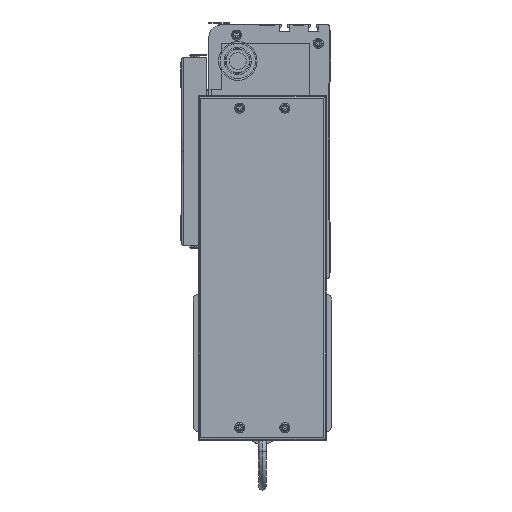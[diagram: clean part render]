
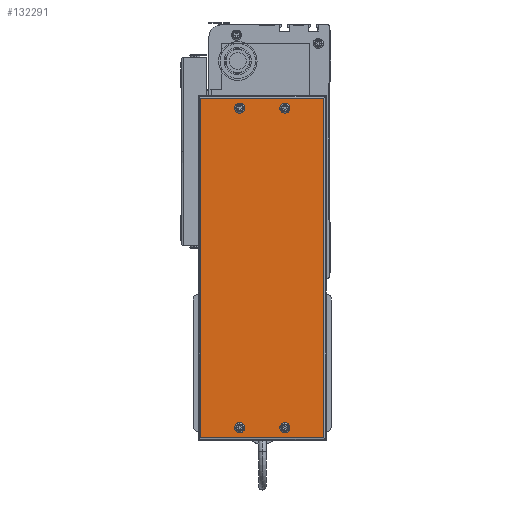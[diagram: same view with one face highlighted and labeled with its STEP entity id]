
A CAD part, left-side view. The second image highlights one B-rep face of the part: STEP entity #132291.
In plain terms, the highlighted planar face has unit normal (-1, 0, 0) as drawn and (1, 0, 0) by its records, which use the part's own axes.
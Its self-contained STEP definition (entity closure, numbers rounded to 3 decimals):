
#39218 = CARTESIAN_POINT ( 'NONE',  ( 50., 10., -35.5 ) ) ;
#40922 = CIRCLE ( 'NONE', #41011, 2.5 ) ;
#40934 = CARTESIAN_POINT ( 'NONE',  ( 50., 264., -33. ) ) ;
#40955 = CARTESIAN_POINT ( 'NONE',  ( 50., 274., -2. ) ) ;
#40956 = LINE ( 'NONE', #40955, #41070 ) ;
#40988 = DIRECTION ( 'NONE',  ( 0., 0., -1. ) ) ;
#40990 = DIRECTION ( 'NONE',  ( 1., 0., 0. ) ) ;
#41011 = AXIS2_PLACEMENT_3D ( 'NONE', #40934, #40990, #40988 ) ;
#41066 = CARTESIAN_POINT ( 'NONE',  ( 50., 2., -2. ) ) ;
#41068 = DIRECTION ( 'NONE',  ( 0., -1., 0. ) ) ;
#41070 = VECTOR ( 'NONE', #41068, 1000. ) ;
#41278 = DIRECTION ( 'NONE',  ( 0., 0., -1. ) ) ;
#41280 = DIRECTION ( 'NONE',  ( 1., 0., 0. ) ) ;
#41282 = CARTESIAN_POINT ( 'NONE',  ( 50., 10., -69. ) ) ;
#41283 = AXIS2_PLACEMENT_3D ( 'NONE', #41282, #41280, #41278 ) ;
#41311 = CIRCLE ( 'NONE', #41283, 2.5 ) ;
#41393 = DIRECTION ( 'NONE',  ( 0., 0., -1. ) ) ;
#41399 = FACE_BOUND ( 'NONE', #132630, .T. ) ;
#41413 = DIRECTION ( 'NONE',  ( 1., 0., 0. ) ) ;
#41433 = AXIS2_PLACEMENT_3D ( 'NONE', #41440, #41413, #41393 ) ;
#41438 = AXIS2_PLACEMENT_3D ( 'NONE', #41446, #41444, #41516 ) ;
#41440 = CARTESIAN_POINT ( 'NONE',  ( 50., 264., -33. ) ) ;
#41444 = DIRECTION ( 'NONE',  ( -1., 0., 0. ) ) ;
#41446 = CARTESIAN_POINT ( 'NONE',  ( 50., 274., 0. ) ) ;
#41453 = CIRCLE ( 'NONE', #41433, 2.5 ) ;
#41485 = CARTESIAN_POINT ( 'NONE',  ( 50., 2., 0. ) ) ;
#41486 = LINE ( 'NONE', #41485, #41498 ) ;
#41496 = DIRECTION ( 'NONE',  ( 0., 0., -1. ) ) ;
#41498 = VECTOR ( 'NONE', #41496, 1000. ) ;
#41513 = FACE_BOUND ( 'NONE', #132101, .T. ) ;
#41514 = FACE_BOUND ( 'NONE', #132773, .T. ) ;
#41516 = DIRECTION ( 'NONE',  ( 0., 0., 1. ) ) ;
#41522 = PLANE ( 'NONE',  #41438 ) ;
#41524 = FACE_BOUND ( 'NONE', #132637, .T. ) ;
#41527 = FACE_OUTER_BOUND ( 'NONE', #132120, .T. ) ;
#41681 = CARTESIAN_POINT ( 'NONE',  ( 50., 2., -100. ) ) ;
#41767 = CARTESIAN_POINT ( 'NONE',  ( 50., 264., -35.5 ) ) ;
#41841 = CARTESIAN_POINT ( 'NONE',  ( 50., 10., -66.5 ) ) ;
#41880 = CARTESIAN_POINT ( 'NONE',  ( 50., 10., -30.5 ) ) ;
#41897 = CARTESIAN_POINT ( 'NONE',  ( 50., 10., -71.5 ) ) ;
#42358 = CARTESIAN_POINT ( 'NONE',  ( 50., 272., -100. ) ) ;
#42373 = DIRECTION ( 'NONE',  ( 0., 1., 0. ) ) ;
#42375 = VECTOR ( 'NONE', #42373, 1000. ) ;
#42377 = CARTESIAN_POINT ( 'NONE',  ( 50., 274., -100. ) ) ;
#42395 = LINE ( 'NONE', #42377, #42375 ) ;
#42412 = CARTESIAN_POINT ( 'NONE',  ( 50., 272., -2. ) ) ;
#42427 = CARTESIAN_POINT ( 'NONE',  ( 50., 264., -30.5 ) ) ;
#42745 = AXIS2_PLACEMENT_3D ( 'NONE', #42811, #42931, #42930 ) ;
#42749 = AXIS2_PLACEMENT_3D ( 'NONE', #42869, #42832, #42831 ) ;
#42757 = DIRECTION ( 'NONE',  ( 0., 0., -1. ) ) ;
#42759 = DIRECTION ( 'NONE',  ( 1., 0., 0. ) ) ;
#42761 = CARTESIAN_POINT ( 'NONE',  ( 50., 10., -69. ) ) ;
#42762 = AXIS2_PLACEMENT_3D ( 'NONE', #42761, #42759, #42757 ) ;
#42777 = CIRCLE ( 'NONE', #42749, 2.5 ) ;
#42792 = CIRCLE ( 'NONE', #42762, 2.5 ) ;
#42811 = CARTESIAN_POINT ( 'NONE',  ( 50., 10., -33. ) ) ;
#42831 = DIRECTION ( 'NONE',  ( 0., 0., -1. ) ) ;
#42832 = DIRECTION ( 'NONE',  ( 1., 0., 0. ) ) ;
#42866 = CIRCLE ( 'NONE', #42745, 2.5 ) ;
#42869 = CARTESIAN_POINT ( 'NONE',  ( 50., 264., -69. ) ) ;
#42930 = DIRECTION ( 'NONE',  ( 0., 0., -1. ) ) ;
#42931 = DIRECTION ( 'NONE',  ( 1., 0., 0. ) ) ;
#43097 = DIRECTION ( 'NONE',  ( 0., 0., 1. ) ) ;
#43099 = VECTOR ( 'NONE', #43097, 1000. ) ;
#43100 = CARTESIAN_POINT ( 'NONE',  ( 50., 272., 0. ) ) ;
#43102 = LINE ( 'NONE', #43100, #43099 ) ;
#68453 = CARTESIAN_POINT ( 'NONE',  ( 50., 10., -33. ) ) ;
#68475 = DIRECTION ( 'NONE',  ( 1., 0., 0. ) ) ;
#68480 = AXIS2_PLACEMENT_3D ( 'NONE', #68453, #68475, #68543 ) ;
#68486 = CIRCLE ( 'NONE', #68480, 2.5 ) ;
#68539 = CARTESIAN_POINT ( 'NONE',  ( 50., 264., -66.5 ) ) ;
#68543 = DIRECTION ( 'NONE',  ( 0., 0., -1. ) ) ;
#68544 = CIRCLE ( 'NONE', #68577, 2.5 ) ;
#68559 = DIRECTION ( 'NONE',  ( 1., 0., 0. ) ) ;
#68577 = AXIS2_PLACEMENT_3D ( 'NONE', #68579, #68559, #68612 ) ;
#68579 = CARTESIAN_POINT ( 'NONE',  ( 50., 264., -69. ) ) ;
#68612 = DIRECTION ( 'NONE',  ( 0., 0., -1. ) ) ;
#68637 = CARTESIAN_POINT ( 'NONE',  ( 50., 264., -71.5 ) ) ;
#131458 = EDGE_CURVE ( 'NONE', #132477, #131583, #68486, .T. ) ;
#131468 = VERTEX_POINT ( 'NONE', #68539 ) ;
#131493 = EDGE_CURVE ( 'NONE', #131468, #131527, #68544, .T. ) ;
#131527 = VERTEX_POINT ( 'NONE', #68637 ) ;
#131583 = VERTEX_POINT ( 'NONE', #39218 ) ;
#131944 = ORIENTED_EDGE ( 'NONE', *, *, #131493, .F. ) ;
#132101 = EDGE_LOOP ( 'NONE', ( #132849, #132357 ) ) ;
#132102 = EDGE_CURVE ( 'NONE', #132618, #132409, #40922, .T. ) ;
#132120 = EDGE_LOOP ( 'NONE', ( #132296, #132294, #132619, #132634 ) ) ;
#132124 = EDGE_CURVE ( 'NONE', #132641, #132129, #40956, .T. ) ;
#132129 = VERTEX_POINT ( 'NONE', #41066 ) ;
#132227 = ORIENTED_EDGE ( 'NONE', *, *, #131458, .F. ) ;
#132231 = EDGE_CURVE ( 'NONE', #132474, #132456, #41311, .T. ) ;
#132288 = EDGE_CURVE ( 'NONE', #132409, #132618, #41453, .T. ) ;
#132291 = ADVANCED_FACE ( 'NONE', ( #41527, #41524, #41399, #41514, #41513 ), #41522, .F. ) ;
#132294 = ORIENTED_EDGE ( 'NONE', *, *, #132298, .T. ) ;
#132296 = ORIENTED_EDGE ( 'NONE', *, *, #132124, .T. ) ;
#132298 = EDGE_CURVE ( 'NONE', #132129, #132399, #41486, .T. ) ;
#132357 = ORIENTED_EDGE ( 'NONE', *, *, #132102, .F. ) ;
#132399 = VERTEX_POINT ( 'NONE', #41681 ) ;
#132409 = VERTEX_POINT ( 'NONE', #41767 ) ;
#132456 = VERTEX_POINT ( 'NONE', #41841 ) ;
#132474 = VERTEX_POINT ( 'NONE', #41897 ) ;
#132477 = VERTEX_POINT ( 'NONE', #41880 ) ;
#132618 = VERTEX_POINT ( 'NONE', #42427 ) ;
#132619 = ORIENTED_EDGE ( 'NONE', *, *, #132621, .T. ) ;
#132621 = EDGE_CURVE ( 'NONE', #132399, #132632, #42395, .T. ) ;
#132630 = EDGE_LOOP ( 'NONE', ( #132780, #132227 ) ) ;
#132632 = VERTEX_POINT ( 'NONE', #42358 ) ;
#132634 = ORIENTED_EDGE ( 'NONE', *, *, #132863, .T. ) ;
#132637 = EDGE_LOOP ( 'NONE', ( #132770, #132775 ) ) ;
#132641 = VERTEX_POINT ( 'NONE', #42412 ) ;
#132750 = EDGE_CURVE ( 'NONE', #132456, #132474, #42792, .T. ) ;
#132763 = EDGE_CURVE ( 'NONE', #131527, #131468, #42777, .T. ) ;
#132767 = ORIENTED_EDGE ( 'NONE', *, *, #132763, .F. ) ;
#132770 = ORIENTED_EDGE ( 'NONE', *, *, #132231, .F. ) ;
#132773 = EDGE_LOOP ( 'NONE', ( #132767, #131944 ) ) ;
#132775 = ORIENTED_EDGE ( 'NONE', *, *, #132750, .F. ) ;
#132777 = EDGE_CURVE ( 'NONE', #131583, #132477, #42866, .T. ) ;
#132780 = ORIENTED_EDGE ( 'NONE', *, *, #132777, .F. ) ;
#132849 = ORIENTED_EDGE ( 'NONE', *, *, #132288, .F. ) ;
#132863 = EDGE_CURVE ( 'NONE', #132632, #132641, #43102, .T. ) ;
